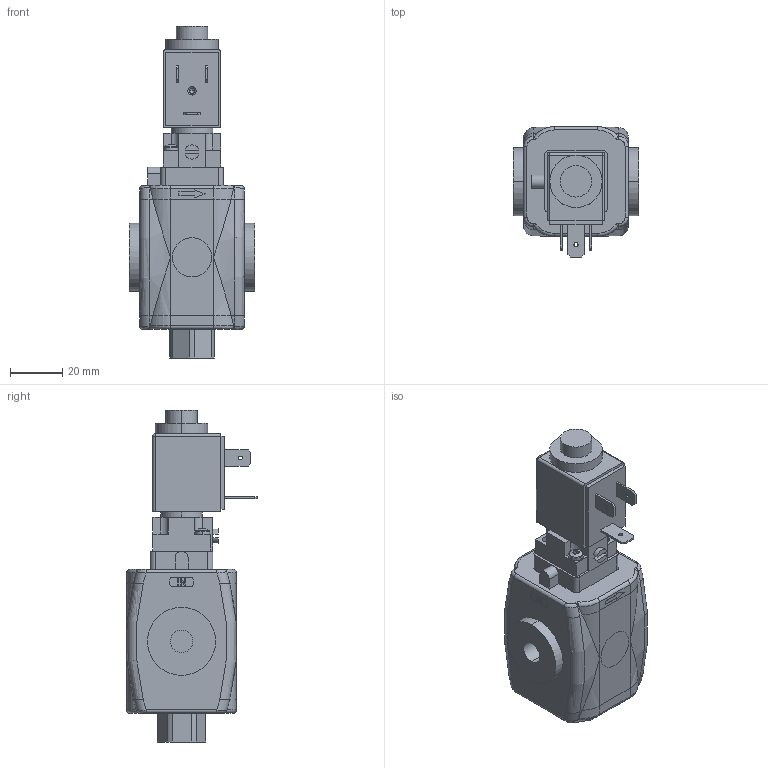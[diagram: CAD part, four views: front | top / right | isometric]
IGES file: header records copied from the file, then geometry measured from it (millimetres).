
Global section: file name: No Iges File Name specified; native system: Autodesk Inventor 2010; preprocessor: AutoDesk Inventor Iges Exporter R2010; author: valotma1; date: 20100823.141841; units: millimetre
Bounding box: 48 x 50 x 127 mm (x, y, z)
Volume: 124331 mm3; surface area: 24691.7 mm2
Topology: 5 solids, 5 shells, 435 faces, 1083 edges, 666 vertices
Faces by surface type: plane 179, bspline 88, cylinder 70, revolution 62, torus 28, cone 4, sphere 4
